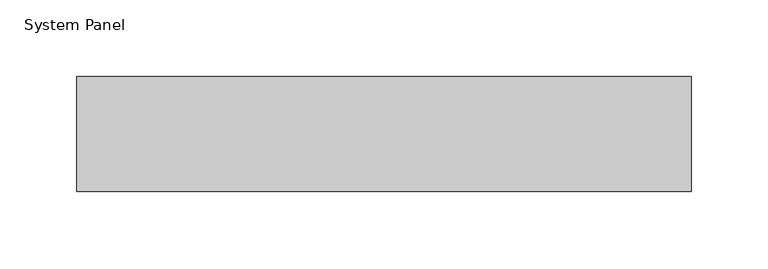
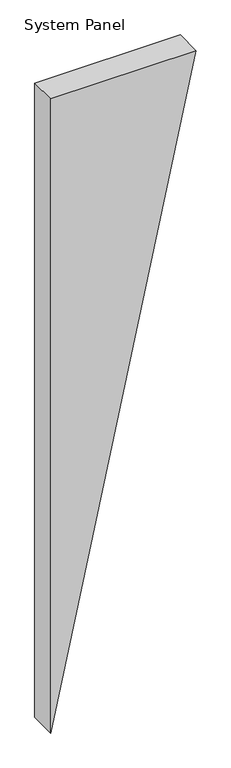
"""IFC4 building model written with IfcOpenShell, lengths in millimetres: plate geometry, System Panel : MetecnoPanel_75mm_Plain_Surfmist."""

from ifc_helpers import new_model, si_unit, frame, origin, place, context, project, spatial, polyline, outline, extrude, source, transform, mapped, element, save


def system_panel_0e52adfc(model_context):
    return source(origin(), model_context, "Body", "SweptSolid", [
        extrude(outline(polyline([(1839.9852118, -200.0), (0.0, -200.0), (1839.9852118, 200.0), (1839.9852118, -200.0)])), frame((0.0, -75.0, 0.0), z_axis=(0.0, 1.0, 0.0), x_axis=(0.0, 0.0, 1.0)), (0.0, 0.0, 1.0), 75.0),
    ])


if __name__ == "__main__":
    model = new_model("IFC4")
    model_context = context("Model", 3, world=origin())
    ifc_project = project(units=[si_unit("LENGTHUNIT", "METRE", prefix="MILLI")], contexts=[model_context])
    site = spatial("IfcSite", under=ifc_project)
    building = spatial("IfcBuilding", under=site)
    placement = place(None, origin())
    system_panel_shape = system_panel_0e52adfc(model_context)
    element("IfcPlate", 1, ObjectType="System Panel : MetecnoPanel_75mm_Plain_Surfmist", at=placement, inside=building, context=model_context, shape_type="MappedRepresentation", body=[
        mapped(system_panel_shape, transform((0.0, 0.0, 0.0), x_axis=(1.0, 0.0, 0.0), y_axis=(0.0, 1.0, 0.0), z_axis=(0.0, 0.0, 1.0))),
    ])
    save(model, "model.ifc")
